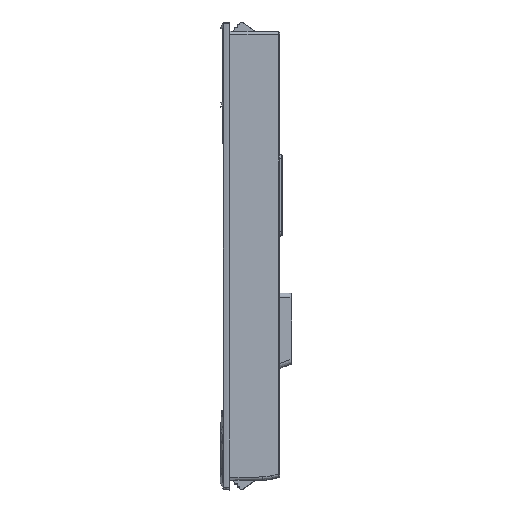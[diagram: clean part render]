
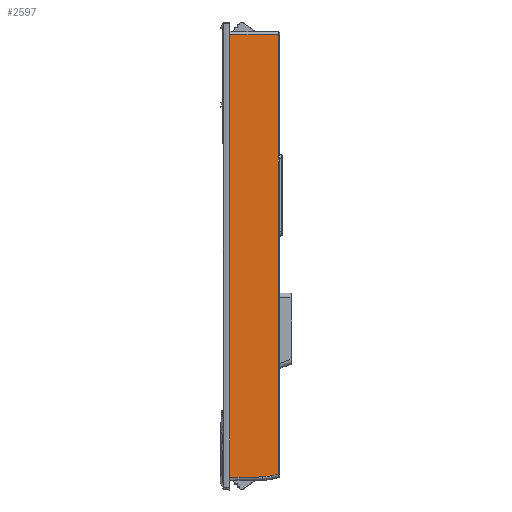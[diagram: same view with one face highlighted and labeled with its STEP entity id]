
A CAD part, top view. The second image highlights one B-rep face of the part: STEP entity #2597.
In plain terms, the highlighted planar face has unit normal (0.018, 0, 1) as drawn and (-1, -0.017, 0) by its records, which use the part's own axes.
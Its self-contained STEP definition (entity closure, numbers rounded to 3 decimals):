
#2597=ADVANCED_FACE('',(#11195),#11197,.F.);
#11195=FACE_BOUND('',#11196,.T.);
#11196=EDGE_LOOP('',(#17006,#17007,#17008,#17009,#17010,#17011,#17012,#17013,#17014,
#17015,#17016,#17017,#17018,#17019,#17020,#17021,#17022,#17023,#17024,#17025,#17026,
#17027,#17028,#17029,#17030));
#11197=PLANE('',#11198);
#11198=AXIS2_PLACEMENT_3D('',#11199,#11200,#11201);
#11199=CARTESIAN_POINT('',(-38.5,133.787,54.94));
#11200=DIRECTION('',(1.,0.017,0.));
#11201=DIRECTION('',(0.,0.,1.));
#17006=ORIENTED_EDGE('',*,*,#19662,.T.);
#17007=ORIENTED_EDGE('',*,*,#19498,.T.);
#17008=ORIENTED_EDGE('',*,*,#19663,.F.);
#17009=ORIENTED_EDGE('',*,*,#19628,.T.);
#17010=ORIENTED_EDGE('',*,*,#19664,.F.);
#17011=ORIENTED_EDGE('',*,*,#19494,.T.);
#17012=ORIENTED_EDGE('',*,*,#19665,.T.);
#17013=ORIENTED_EDGE('',*,*,#19604,.T.);
#17014=ORIENTED_EDGE('',*,*,#19666,.F.);
#17015=ORIENTED_EDGE('',*,*,#19490,.T.);
#17016=ORIENTED_EDGE('',*,*,#19667,.T.);
#17017=ORIENTED_EDGE('',*,*,#19608,.T.);
#17018=ORIENTED_EDGE('',*,*,#19668,.F.);
#17019=ORIENTED_EDGE('',*,*,#19486,.T.);
#17020=ORIENTED_EDGE('',*,*,#19669,.T.);
#17021=ORIENTED_EDGE('',*,*,#19612,.T.);
#17022=ORIENTED_EDGE('',*,*,#19670,.F.);
#17023=ORIENTED_EDGE('',*,*,#19482,.T.);
#17024=ORIENTED_EDGE('',*,*,#19671,.T.);
#17025=ORIENTED_EDGE('',*,*,#19616,.T.);
#17026=ORIENTED_EDGE('',*,*,#19672,.F.);
#17027=ORIENTED_EDGE('',*,*,#19673,.T.);
#17028=ORIENTED_EDGE('',*,*,#19674,.T.);
#17029=ORIENTED_EDGE('',*,*,#19675,.T.);
#17030=ORIENTED_EDGE('',*,*,#19676,.T.);
#19482=EDGE_CURVE('',#21797,#21795,#21798,.T.);
#19486=EDGE_CURVE('',#21805,#21803,#21806,.T.);
#19490=EDGE_CURVE('',#21813,#21811,#21814,.T.);
#19494=EDGE_CURVE('',#21821,#21819,#21822,.T.);
#19498=EDGE_CURVE('',#21829,#21827,#21830,.T.);
#19604=EDGE_CURVE('',#22019,#22017,#22020,.T.);
#19608=EDGE_CURVE('',#22027,#22025,#22028,.T.);
#19612=EDGE_CURVE('',#22035,#22033,#22036,.T.);
#19616=EDGE_CURVE('',#22043,#22041,#22044,.T.);
#19628=EDGE_CURVE('',#22067,#22065,#22068,.T.);
#19662=EDGE_CURVE('',#22111,#21829,#22114,.T.);
#19663=EDGE_CURVE('',#22067,#21827,#22115,.T.);
#19664=EDGE_CURVE('',#21821,#22065,#22116,.T.);
#19665=EDGE_CURVE('',#21819,#22019,#22117,.T.);
#19666=EDGE_CURVE('',#21813,#22017,#22118,.T.);
#19667=EDGE_CURVE('',#21811,#22027,#22119,.T.);
#19668=EDGE_CURVE('',#21805,#22025,#22120,.T.);
#19669=EDGE_CURVE('',#21803,#22035,#22121,.T.);
#19670=EDGE_CURVE('',#21797,#22033,#22122,.T.);
#19671=EDGE_CURVE('',#21795,#22043,#22123,.T.);
#19672=EDGE_CURVE('',#21789,#22041,#22124,.T.);
#19673=EDGE_CURVE('',#21789,#22125,#22126,.T.);
#19674=EDGE_CURVE('',#22125,#22127,#22128,.T.);
#19675=EDGE_CURVE('',#22127,#22129,#22130,.T.);
#19676=EDGE_CURVE('',#22129,#22111,#22131,.T.);
#21789=VERTEX_POINT('',#33640);
#21795=VERTEX_POINT('',#33653);
#21797=VERTEX_POINT('',#33657);
#21798=LINE('',#33658,#33659);
#21803=VERTEX_POINT('',#33669);
#21805=VERTEX_POINT('',#33673);
#21806=LINE('',#33674,#33675);
#21811=VERTEX_POINT('',#33685);
#21813=VERTEX_POINT('',#33689);
#21814=LINE('',#33690,#33691);
#21819=VERTEX_POINT('',#33701);
#21821=VERTEX_POINT('',#33705);
#21822=LINE('',#33706,#33707);
#21827=VERTEX_POINT('',#33717);
#21829=VERTEX_POINT('',#33721);
#21830=LINE('',#33722,#33723);
#22017=VERTEX_POINT('',#34208);
#22019=VERTEX_POINT('',#34213);
#22020=LINE('',#34214,#34215);
#22025=VERTEX_POINT('',#34226);
#22027=VERTEX_POINT('',#34231);
#22028=LINE('',#34232,#34233);
#22033=VERTEX_POINT('',#34244);
#22035=VERTEX_POINT('',#34249);
#22036=LINE('',#34250,#34251);
#22041=VERTEX_POINT('',#34262);
#22043=VERTEX_POINT('',#34267);
#22044=LINE('',#34268,#34269);
#22065=VERTEX_POINT('',#34318);
#22067=VERTEX_POINT('',#34325);
#22068=LINE('',#34326,#34327);
#22111=VERTEX_POINT('',#34474);
#22114=LINE('',#34496,#34497);
#22115=LINE('',#34499,#34500);
#22116=LINE('',#34502,#34503);
#22117=LINE('',#34505,#34506);
#22118=LINE('',#34508,#34509);
#22119=LINE('',#34511,#34512);
#22120=LINE('',#34514,#34515);
#22121=LINE('',#34517,#34518);
#22122=LINE('',#34520,#34521);
#22123=LINE('',#34523,#34524);
#22124=LINE('',#34526,#34527);
#22125=VERTEX_POINT('',#34529);
#22126=LINE('',#34530,#34531);
#22127=VERTEX_POINT('',#34533);
#22128=B_SPLINE_CURVE_WITH_KNOTS('',3,
(#34534,#34535,#34536,#34537,#34538,#34539),
.UNSPECIFIED.,.F.,.F.,
(4,2,4),
(0.,0.5,1.),
.UNSPECIFIED.);
#22129=VERTEX_POINT('',#34540);
#22130=LINE('',#34541,#34542);
#22131=LINE('',#34544,#34545);
#33640=CARTESIAN_POINT('',(-38.5,133.787,-97.121));
#33653=CARTESIAN_POINT('',(-38.5,133.787,-65.871));
#33657=CARTESIAN_POINT('',(-38.5,133.787,-64.871));
#33658=CARTESIAN_POINT('',(-38.5,133.787,-64.871));
#33659=VECTOR('',#33660,1.);
#33660=DIRECTION('',(0.,0.,-1.));
#33669=CARTESIAN_POINT('',(-38.5,133.787,-35.871));
#33673=CARTESIAN_POINT('',(-38.5,133.787,-34.871));
#33674=CARTESIAN_POINT('',(-38.5,133.787,-34.871));
#33675=VECTOR('',#33676,1.);
#33676=DIRECTION('',(0.,0.,-1.));
#33685=CARTESIAN_POINT('',(-38.5,133.787,-5.871));
#33689=CARTESIAN_POINT('',(-38.5,133.787,-4.871));
#33690=CARTESIAN_POINT('',(-38.5,133.787,-4.871));
#33691=VECTOR('',#33692,1.);
#33692=DIRECTION('',(0.,0.,-1.));
#33701=CARTESIAN_POINT('',(-38.5,133.787,26.379));
#33705=CARTESIAN_POINT('',(-38.5,133.787,27.379));
#33706=CARTESIAN_POINT('',(-38.5,133.787,27.379));
#33707=VECTOR('',#33708,1.);
#33708=DIRECTION('',(0.,0.,-1.));
#33717=CARTESIAN_POINT('',(-38.5,133.787,49.797));
#33721=CARTESIAN_POINT('',(-38.5,133.787,49.879));
#33722=CARTESIAN_POINT('',(-38.5,133.787,49.879));
#33723=VECTOR('',#33724,1.);
#33724=DIRECTION('',(0.,0.,-1.));
#34208=CARTESIAN_POINT('',(-38.505,134.071,-4.871));
#34213=CARTESIAN_POINT('',(-38.505,134.071,26.379));
#34214=CARTESIAN_POINT('',(-38.505,134.071,26.379));
#34215=VECTOR('',#34216,1.);
#34216=DIRECTION('',(0.,0.,-1.));
#34226=CARTESIAN_POINT('',(-38.505,134.071,-34.871));
#34231=CARTESIAN_POINT('',(-38.505,134.071,-5.871));
#34232=CARTESIAN_POINT('',(-38.505,134.071,-5.871));
#34233=VECTOR('',#34234,1.);
#34234=DIRECTION('',(0.,0.,-1.));
#34244=CARTESIAN_POINT('',(-38.505,134.071,-64.871));
#34249=CARTESIAN_POINT('',(-38.505,134.071,-35.871));
#34250=CARTESIAN_POINT('',(-38.505,134.071,-35.871));
#34251=VECTOR('',#34252,1.);
#34252=DIRECTION('',(0.,0.,-1.));
#34262=CARTESIAN_POINT('',(-38.505,134.071,-97.121));
#34267=CARTESIAN_POINT('',(-38.505,134.071,-65.871));
#34268=CARTESIAN_POINT('',(-38.505,134.071,-65.871));
#34269=VECTOR('',#34270,1.);
#34270=DIRECTION('',(0.,0.,-1.));
#34318=CARTESIAN_POINT('',(-38.505,134.071,27.384));
#34325=CARTESIAN_POINT('',(-38.505,134.071,49.797));
#34326=CARTESIAN_POINT('',(-38.505,134.071,49.797));
#34327=VECTOR('',#34328,1.);
#34328=DIRECTION('',(0.,0.,-1.));
#34474=CARTESIAN_POINT('',(-38.219,117.691,49.598));
#34496=CARTESIAN_POINT('',(-38.219,117.691,49.598));
#34497=VECTOR('',#34498,1.);
#34498=DIRECTION('',(-0.017,1.,0.017));
#34499=CARTESIAN_POINT('',(-38.505,134.071,49.797));
#34500=VECTOR('',#34501,1.);
#34501=DIRECTION('',(0.017,-1.,0.));
#34502=CARTESIAN_POINT('',(-38.5,133.787,27.379));
#34503=VECTOR('',#34504,1.);
#34504=DIRECTION('',(-0.017,1.,0.017));
#34505=CARTESIAN_POINT('',(-38.5,133.787,26.379));
#34506=VECTOR('',#34507,1.);
#34507=DIRECTION('',(-0.017,1.,0.));
#34508=CARTESIAN_POINT('',(-38.5,133.787,-4.871));
#34509=VECTOR('',#34510,1.);
#34510=DIRECTION('',(-0.017,1.,0.));
#34511=CARTESIAN_POINT('',(-38.5,133.787,-5.871));
#34512=VECTOR('',#34513,1.);
#34513=DIRECTION('',(-0.017,1.,0.));
#34514=CARTESIAN_POINT('',(-38.5,133.787,-34.871));
#34515=VECTOR('',#34516,1.);
#34516=DIRECTION('',(-0.017,1.,0.));
#34517=CARTESIAN_POINT('',(-38.5,133.787,-35.871));
#34518=VECTOR('',#34519,1.);
#34519=DIRECTION('',(-0.017,1.,0.));
#34520=CARTESIAN_POINT('',(-38.5,133.787,-64.871));
#34521=VECTOR('',#34522,1.);
#34522=DIRECTION('',(-0.017,1.,0.));
#34523=CARTESIAN_POINT('',(-38.5,133.787,-65.871));
#34524=VECTOR('',#34525,1.);
#34525=DIRECTION('',(-0.017,1.,0.));
#34526=CARTESIAN_POINT('',(-38.5,133.787,-97.121));
#34527=VECTOR('',#34528,1.);
#34528=DIRECTION('',(-0.017,1.,0.));
#34529=CARTESIAN_POINT('',(-38.311,122.933,-96.932));
#34530=CARTESIAN_POINT('',(-38.5,133.787,-97.121));
#34531=VECTOR('',#34532,1.);
#34532=DIRECTION('',(0.017,-1.,0.017));
#34533=CARTESIAN_POINT('',(-38.258,119.91,-96.548));
#34534=CARTESIAN_POINT('',(-38.311,122.933,-96.932));
#34535=CARTESIAN_POINT('',(-38.302,122.424,-96.909));
#34536=CARTESIAN_POINT('',(-38.293,121.915,-96.886));
#34537=CARTESIAN_POINT('',(-38.275,120.907,-96.758));
#34538=CARTESIAN_POINT('',(-38.266,120.409,-96.653));
#34539=CARTESIAN_POINT('',(-38.258,119.91,-96.548));
#34540=CARTESIAN_POINT('',(-38.219,117.691,-96.015));
#34541=CARTESIAN_POINT('',(-38.258,119.91,-96.548));
#34542=VECTOR('',#34543,1.);
#34543=DIRECTION('',(0.017,-0.972,0.233));
#34544=CARTESIAN_POINT('',(-38.219,117.691,-96.015));
#34545=VECTOR('',#34546,1.);
#34546=DIRECTION('',(0.,0.,1.));
